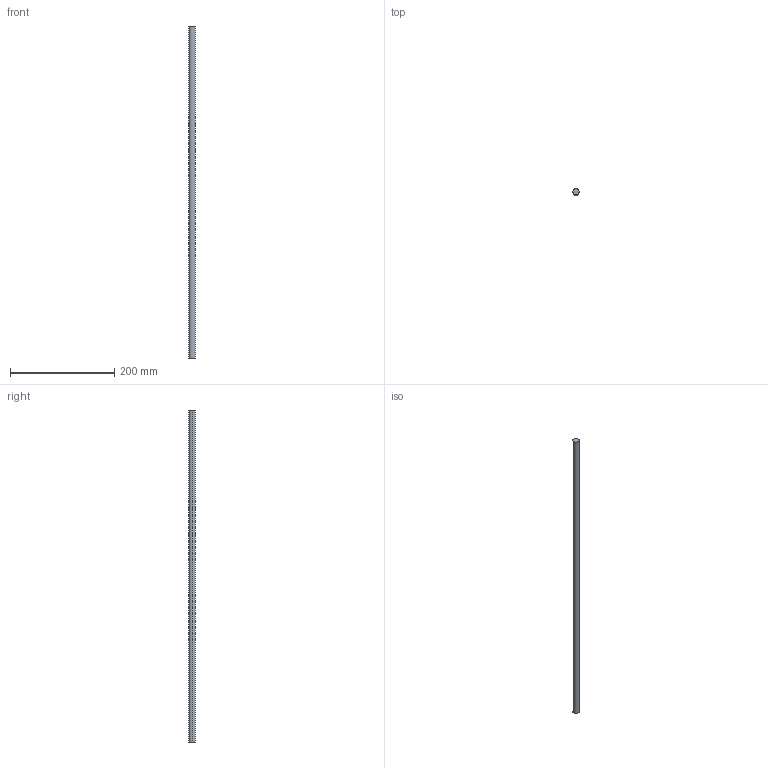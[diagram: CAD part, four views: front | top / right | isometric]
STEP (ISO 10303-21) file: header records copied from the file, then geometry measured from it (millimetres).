
FILE_DESCRIPTION (( 'STEP AP214' ), '1' );
FILE_NAME ('Innenschub H182 - S16_S17 - 750.step', '2010-09-07T14:55:58', ( 'grass' ), ( '' ), 'SwSTEP 2.0', 'SolidWorks 2010', '' );
FILE_SCHEMA (( 'AUTOMOTIVE_DESIGN' ));
Length unit declared in the file: millimetre
Products named in the file (1): Innenschub H182 - S16_S17 - 750
Bounding box: 12 x 12 x 637 mm (x, y, z)
Volume: 72043 mm3; surface area: 24240.5 mm2
Topology: 1 solids, 1 shells, 4 faces, 6 edges, 4 vertices
Faces by surface type: cylinder 2, plane 2
Entity records: 128 total; most frequent: DIRECTION 20, CARTESIAN_POINT 15, ORIENTED_EDGE 12, AXIS2_PLACEMENT_3D 9, EDGE_CURVE 6, FACE_OUTER_BOUND 4, EDGE_LOOP 4, CIRCLE 4
